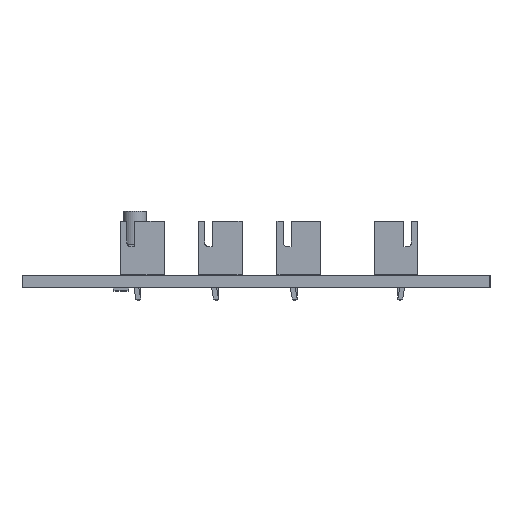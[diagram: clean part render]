
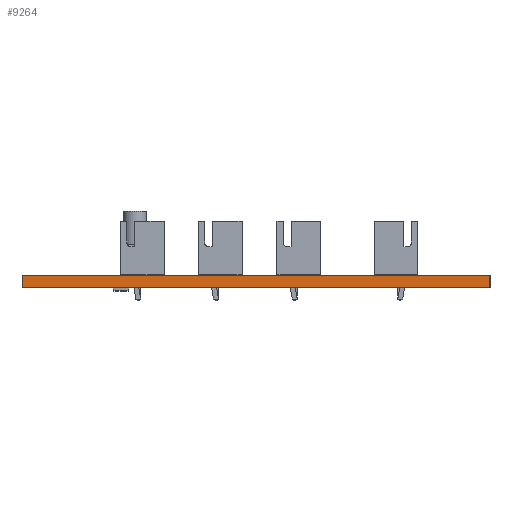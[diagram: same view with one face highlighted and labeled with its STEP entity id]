
A CAD part, left-side view. The second image highlights one B-rep face of the part: STEP entity #9264.
In plain terms, the highlighted planar face has unit normal (-1, 0, 0).
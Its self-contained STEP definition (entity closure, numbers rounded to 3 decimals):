
#9208 = VERTEX_POINT('',#9209);
#9209 = CARTESIAN_POINT('',(53.2,-112.8,1.6));
#9215 = EDGE_CURVE('',#9216,#9208,#9218,.T.);
#9216 = VERTEX_POINT('',#9217);
#9217 = CARTESIAN_POINT('',(53.2,-112.8,0.));
#9218 = LINE('',#9219,#9220);
#9219 = CARTESIAN_POINT('',(53.2,-112.8,0.));
#9220 = VECTOR('',#9221,1.);
#9221 = DIRECTION('',(0.,0.,1.));
#9264 = ADVANCED_FACE('',(#9265),#9290,.T.);
#9265 = FACE_BOUND('',#9266,.T.);
#9266 = EDGE_LOOP('',(#9267,#9268,#9276,#9284));
#9267 = ORIENTED_EDGE('',*,*,#9215,.T.);
#9268 = ORIENTED_EDGE('',*,*,#9269,.T.);
#9269 = EDGE_CURVE('',#9208,#9270,#9272,.T.);
#9270 = VERTEX_POINT('',#9271);
#9271 = CARTESIAN_POINT('',(53.2,-51.4,1.6));
#9272 = LINE('',#9273,#9274);
#9273 = CARTESIAN_POINT('',(53.2,-112.8,1.6));
#9274 = VECTOR('',#9275,1.);
#9275 = DIRECTION('',(0.,1.,0.));
#9276 = ORIENTED_EDGE('',*,*,#9277,.F.);
#9277 = EDGE_CURVE('',#9278,#9270,#9280,.T.);
#9278 = VERTEX_POINT('',#9279);
#9279 = CARTESIAN_POINT('',(53.2,-51.4,0.));
#9280 = LINE('',#9281,#9282);
#9281 = CARTESIAN_POINT('',(53.2,-51.4,0.));
#9282 = VECTOR('',#9283,1.);
#9283 = DIRECTION('',(0.,0.,1.));
#9284 = ORIENTED_EDGE('',*,*,#9285,.F.);
#9285 = EDGE_CURVE('',#9216,#9278,#9286,.T.);
#9286 = LINE('',#9287,#9288);
#9287 = CARTESIAN_POINT('',(53.2,-112.8,0.));
#9288 = VECTOR('',#9289,1.);
#9289 = DIRECTION('',(0.,1.,0.));
#9290 = PLANE('',#9291);
#9291 = AXIS2_PLACEMENT_3D('',#9292,#9293,#9294);
#9292 = CARTESIAN_POINT('',(53.2,-112.8,0.));
#9293 = DIRECTION('',(-1.,0.,0.));
#9294 = DIRECTION('',(0.,1.,0.));
